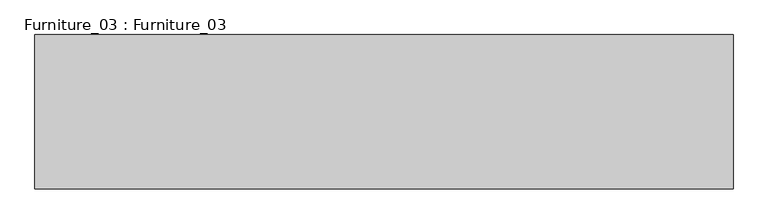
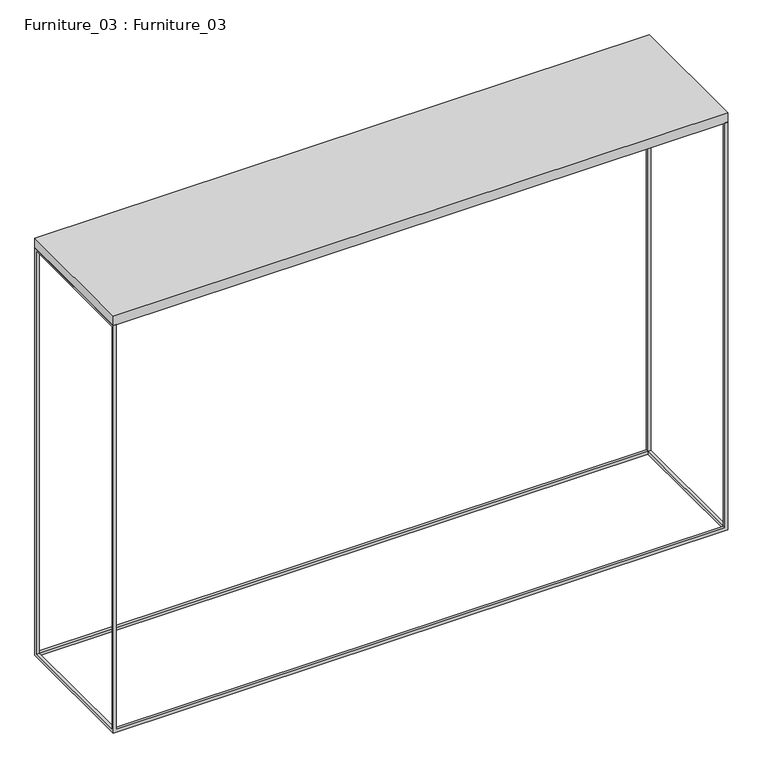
"""IFC4 building model written with IfcOpenShell, lengths in millimetres: furniture geometry, Furniture_03 : Furniture_03."""

import ifcopenshell
import ifcopenshell.guid

model = None  # the IFC model being written
_history = None  # IfcOwnerHistory: only IFC2X3 demands one
_inside = {}  # id of a spatial element -> (the spatial element, [elements in it])
_under = {}  # id of a project, library or spatial element -> (it, [spatial elements below it])
_declared = {}  # id of a project -> (the project, [libraries it declares])
_typed = {}  # id of a type object -> (the type object, [elements of that type])
_made_of = {}  # id of a material, layer set ... -> (it, [elements and type objects made of it])


def new_model(schema):
    """Start an empty IFC model of exactly this schema.

    Asked for "IFC4X3", IfcOpenShell would pick the latest addendum, in which some entities
    have other attributes; the version numbers below select the first issue.
    IFC2X3 requires an IfcOwnerHistory on every rooted entity: one is made here for all.
    """
    global model, _history
    if schema == "IFC4X3":
        model = ifcopenshell.file(schema_version=(4, 3, 0, 0))
    else:
        model = ifcopenshell.file(schema=schema)
    _inside.clear()
    _under.clear()
    _declared.clear()
    _typed.clear()
    _made_of.clear()
    _history = None
    if model.schema == "IFC2X3":
        org = make("IfcOrganization", Name="unknown")
        user = make(
            "IfcPersonAndOrganization",
            ThePerson=make("IfcPerson", FamilyName="unknown"),
            TheOrganization=org,
        )
        app = make(
            "IfcApplication",
            ApplicationDeveloper=org,
            Version="unknown",
            ApplicationFullName="unknown",
            ApplicationIdentifier="unknown",
        )
        _history = make(
            "IfcOwnerHistory",
            OwningUser=user,
            OwningApplication=app,
            ChangeAction="ADDED",
            CreationDate=0,
        )
    return model


def make(cls, **values):
    """One entity of the class cls with the attributes given. An attribute that is None is left unset."""
    return model.create_entity(
        cls, **{name: value for name, value in values.items() if value is not None}
    )


def rooted(cls, **values):
    """An entity with a GlobalId (a new one), such as an element, a storey or a relation."""
    return make(cls, GlobalId=ifcopenshell.guid.new(), OwnerHistory=_history, **values)


def si_unit(unit_type, name, prefix=None):
    """IfcSIUnit, for example si_unit("LENGTHUNIT", "METRE", prefix="MILLI")."""
    return make("IfcSIUnit", UnitType=unit_type, Prefix=prefix, Name=name)


def assignment(units):
    """IfcUnitAssignment: the units of a project."""
    return None if units is None else make("IfcUnitAssignment", Units=units)


def point(xyz):
    """IfcCartesianPoint."""
    return None if xyz is None else make("IfcCartesianPoint", Coordinates=xyz)


def direction(xyz):
    """IfcDirection."""
    return None if xyz is None else make("IfcDirection", DirectionRatios=xyz)


def frame(location, z_axis=None, x_axis=None):
    """IfcAxis2Placement3D, a coordinate frame: its origin and axes. An axis left out is left unset."""
    return make(
        "IfcAxis2Placement3D",
        Location=point(location),
        Axis=direction(z_axis),
        RefDirection=direction(x_axis),
    )


def origin():
    """The frame at (0, 0, 0) with its axes left unset."""
    return frame((0.0, 0.0, 0.0))


def place(relative_to, where):
    """IfcLocalPlacement: puts the frame where relative to a parent placement (None: the world)."""
    return make(
        "IfcLocalPlacement", PlacementRelTo=relative_to, RelativePlacement=where
    )


def context(
    kind, dimensions, precision=None, world=None, true_north=None, identifier=None
):
    """IfcGeometricRepresentationContext, for example the 3D "Model" context."""
    return make(
        "IfcGeometricRepresentationContext",
        ContextIdentifier=identifier,
        ContextType=kind,
        CoordinateSpaceDimension=dimensions,
        Precision=precision,
        WorldCoordinateSystem=world,
        TrueNorth=true_north,
    )


def project(units=None, contexts=None):
    """IfcProject with its units and contexts."""
    return rooted(
        "IfcProject",
        Name="project",
        RepresentationContexts=contexts,
        UnitsInContext=assignment(units),
    )


def spatial(cls, under=None, at=None, **own):
    """A site, building, storey or space (cls), placed at a placement, below another one or the project."""
    s = rooted(cls, ObjectPlacement=at, **own)
    if under is not None:
        _under.setdefault(under.id(), (under, []))[1].append(s)
    return s


def polyline(points):
    """IfcPolyline through the points."""
    return make("IfcPolyline", Points=[point(p) for p in points])


def outline(outer, holes=None, kind="AREA"):
    """IfcArbitraryClosedProfileDef: a profile drawn as a closed curve; with holes, ...WithVoids."""
    if holes is None:
        return make("IfcArbitraryClosedProfileDef", ProfileType=kind, OuterCurve=outer)
    return make(
        "IfcArbitraryProfileDefWithVoids",
        ProfileType=kind,
        OuterCurve=outer,
        InnerCurves=holes,
    )


def extrude(swept, where, along, depth):
    """IfcExtrudedAreaSolid: the profile swept, set in the frame where, extruded along a direction by depth."""
    return make(
        "IfcExtrudedAreaSolid",
        SweptArea=swept,
        Position=where,
        ExtrudedDirection=direction(along),
        Depth=depth,
    )


def faces_of(points, faces, orient=None, outer=None):
    """IfcFace entities. A face is a list of loops; a loop is a list of indices into points, from 0.

    orient and outer hold one flag for each loop. By default every Orientation is true, the
    first loop of a face is its IfcFaceOuterBound and the others are IfcFaceBound.
    """
    made = []
    for i, loops in enumerate(faces):
        bounds = []
        for j, loop in enumerate(loops):
            is_outer = j == 0 if outer is None else outer[i][j]
            bounds.append(
                make(
                    "IfcFaceOuterBound" if is_outer else "IfcFaceBound",
                    Bound=make("IfcPolyLoop", Polygon=[points[k] for k in loop]),
                    Orientation=True if orient is None else orient[i][j],
                )
            )
        made.append(make("IfcFace", Bounds=bounds))
    return made


def faceted_brep(points, faces, orient=None, outer=None, voids=None):
    """IfcFacetedBrep: a solid bounded by flat faces; with voids (closed shells), ...WithVoids."""
    shared = [point(p) for p in points]
    hull = make("IfcClosedShell", CfsFaces=faces_of(shared, faces, orient, outer))
    if voids is None:
        return make("IfcFacetedBrep", Outer=hull)
    return make(
        "IfcFacetedBrepWithVoids",
        Outer=hull,
        Voids=[
            make(cls, CfsFaces=faces_of(shared, fs, o, b)) for cls, fs, o, b in voids
        ],
    )


def shape(context_of_items, identifier, shape_type, items):
    """IfcShapeRepresentation: the items that make up one representation, for example the "Body"."""
    return make(
        "IfcShapeRepresentation",
        ContextOfItems=context_of_items,
        RepresentationIdentifier=identifier,
        RepresentationType=shape_type,
        Items=items,
    )


def source(mapping_origin, context_of_items, identifier, shape_type, items):
    """IfcRepresentationMap: a shape defined once, which mapped items show again and again."""
    return make(
        "IfcRepresentationMap",
        MappingOrigin=mapping_origin,
        MappedRepresentation=shape(context_of_items, identifier, shape_type, items),
    )


def transform(
    local_origin,
    x_axis=None,
    y_axis=None,
    z_axis=None,
    scale=None,
    scale2=None,
    scale3=None,
    uniform=True,
):
    """IfcCartesianTransformationOperator3D, or its non-uniform kind. x_axis, y_axis, z_axis: its Axis1, 2, 3."""
    if uniform:
        return make(
            "IfcCartesianTransformationOperator3D",
            Axis1=direction(x_axis),
            Axis2=direction(y_axis),
            LocalOrigin=point(local_origin),
            Scale=scale,
            Axis3=direction(z_axis),
        )
    return make(
        "IfcCartesianTransformationOperator3DnonUniform",
        Axis1=direction(x_axis),
        Axis2=direction(y_axis),
        LocalOrigin=point(local_origin),
        Scale=scale,
        Axis3=direction(z_axis),
        Scale2=scale2,
        Scale3=scale3,
    )


def mapped(mapping_source, mapping_target):
    """IfcMappedItem: shows the shape of a source again, moved by a transform."""
    return make(
        "IfcMappedItem", MappingSource=mapping_source, MappingTarget=mapping_target
    )


def made_of(thing, what):
    """Note that an element or type object is made of a material, layer set ...; save() writes the relation."""
    if what is not None:
        _made_of.setdefault(what.id(), (what, []))[1].append(thing)
    return thing


def element(
    cls,
    number,
    at=None,
    inside=None,
    cuts=None,
    type_object=None,
    material=None,
    context=None,
    identifier="Body",
    shape_type=None,
    held_by="IfcProductDefinitionShape",
    body=None,
    shapes=None,
    **own,
):
    """One element of the class cls, such as IfcWall. Its Tag is "e" and its number.

    at: its placement. inside: the storey or other place that contains it. cuts: it is an
    opening in that element (IfcRelVoidsElement). A single representation is given by context,
    identifier, shape_type and body (its items); several are given by shapes. held_by: the class
    of the entity that holds the representations. save() writes the other relations.
    """
    e = rooted(cls, Tag="e%d" % number, ObjectPlacement=at, **own)
    if body is not None:
        shapes = [shape(context, identifier, shape_type, body)]
    if shapes is not None:
        e.Representation = make(held_by, Representations=shapes)
    if inside is not None:
        _inside.setdefault(inside.id(), (inside, []))[1].append(e)
    if cuts is not None:
        rooted(
            "IfcRelVoidsElement", RelatingBuildingElement=cuts, RelatedOpeningElement=e
        )
    if type_object is not None:
        _typed.setdefault(type_object.id(), (type_object, []))[1].append(e)
    return made_of(e, material)


def aggregate(whole, parts):
    """IfcRelAggregates: a whole, such as a stair, and the parts it consists of."""
    return rooted("IfcRelAggregates", RelatingObject=whole, RelatedObjects=parts)


def save(model, path):
    """Write the relations noted so far, then the file.

    IfcRelAggregates (storeys below a building ...), IfcRelContainedInSpatialStructure (elements
    in a storey), IfcRelDefinesByType, IfcRelAssociatesMaterial and IfcRelDeclares: one each for
    every whole, place, type object, material and project.
    """
    for whole, parts in _under.values():
        aggregate(whole, parts)
    for where, things in _inside.values():
        rooted(
            "IfcRelContainedInSpatialStructure",
            RelatedElements=things,
            RelatingStructure=where,
        )
    for kind, things in _typed.values():
        rooted("IfcRelDefinesByType", RelatedObjects=things, RelatingType=kind)
    for what, things in _made_of.values():
        rooted("IfcRelAssociatesMaterial", RelatedObjects=things, RelatingMaterial=what)
    for by, libraries in _declared.values():
        rooted("IfcRelDeclares", RelatingContext=by, RelatedDefinitions=libraries)
    model.write(path)


def furniture_03_furniture_03_c5ecfdc4(model_context):
    return source(origin(), model_context, "Body", "SolidModel", [
        faceted_brep([(3145.1237709, 18469.3722598, 8085.0), (3145.1237709, 18469.3722598, 8080.0), (3145.1237709, 18239.3722598, 8080.0), (3145.1237709, 18239.3722598, 8085.0), (3150.1237709, 18474.3722598, 8840.281807), (3150.1237709, 18234.3722598, 8840.281807), (3150.1237709, 18234.3722598, 8080.0), (3150.1237709, 18474.3722598, 8080.0), (3150.1237709, 18469.3722598, 8085.0), (3150.1237709, 18239.3722598, 8085.0), (3150.1237709, 18239.3722598, 8835.281807), (3150.1237709, 18469.3722598, 8835.281807), (2070.1237709, 18239.3722598, 8080.0), (2070.1237709, 18239.3722598, 8085.0), (3145.1237709, 18234.3722598, 8840.281807), (3145.1237709, 18234.3722598, 8085.0), (2070.1237709, 18234.3722598, 8085.0), (2070.1237709, 18234.3722598, 8840.281807), (2065.1237709, 18234.3722598, 8840.281807), (2065.1237709, 18234.3722598, 8080.0), (2070.1237709, 18469.3722598, 8080.0), (2070.1237709, 18469.3722598, 8085.0), (2065.1237709, 18474.3722598, 8080.0), (2065.1237709, 18474.3722598, 8840.281807), (2065.1237709, 18239.3722598, 8835.281807), (2065.1237709, 18239.3722598, 8085.0), (2065.1237709, 18469.3722598, 8085.0), (2065.1237709, 18469.3722598, 8835.281807), (3145.1237709, 18474.3722598, 8085.0), (2070.1237709, 18474.3722598, 8085.0), (2070.1237709, 18474.3722598, 8840.281807), (3145.1237709, 18474.3722598, 8840.281807), (2070.1237709, 18239.3722598, 8835.281807), (2070.1237709, 18469.3722598, 8835.281807), (3145.1237709, 18239.3722598, 8835.281807), (3145.1237709, 18469.3722598, 8835.281807)], [[[0, 1, 2, 3]], [[4, 5, 6, 7], [8, 9, 10, 11]], [[3, 2, 12, 13]], [[6, 5, 14, 15, 16, 17, 18, 19]], [[13, 12, 20, 21]], [[22, 19, 18, 23], [24, 25, 26, 27]], [[1, 0, 21, 20]], [[0, 3, 9, 8]], [[3, 13, 16, 15]], [[13, 21, 26, 25]], [[21, 0, 28, 29]], [[4, 7, 22, 23, 30, 29, 28, 31]], [[22, 7, 6, 19], [2, 1, 20, 12]], [[24, 32, 13, 25]], [[21, 33, 27, 26]], [[18, 17, 30, 23]], [[13, 32, 33, 21, 29, 30, 17, 16]], [[32, 24, 27, 33]], [[34, 10, 9, 3]], [[8, 11, 35, 0]], [[14, 5, 4, 31]], [[10, 34, 35, 11]], [[34, 3, 15, 14, 31, 28, 0, 35]]]),
        extrude(outline(polyline([(3150.1237709, 18474.3722598), (3150.1237709, 18234.3722598), (2065.1237709, 18234.3722598), (2065.1237709, 18474.3722598), (3150.1237709, 18474.3722598)])), frame((0.0, 0.0, 8840.281807), z_axis=(0.0, 0.0, 1.0), x_axis=(1.0, 0.0, 0.0)), (0.0, 0.0, 1.0), 17.1007022),
    ])


if __name__ == "__main__":
    model = new_model("IFC4")
    model_context = context("Model", 3, world=origin())
    ifc_project = project(units=[si_unit("LENGTHUNIT", "METRE", prefix="MILLI")], contexts=[model_context])
    site = spatial("IfcSite", under=ifc_project)
    building = spatial("IfcBuilding", under=site)
    placement = place(None, origin())
    furniture_03_furniture_03_shape = furniture_03_furniture_03_c5ecfdc4(model_context)
    element("IfcFurniture", 1, ObjectType="Furniture_03 : Furniture_03", at=placement, inside=building, context=model_context, shape_type="MappedRepresentation", body=[
        mapped(furniture_03_furniture_03_shape, transform((0.0, 0.0, 0.0), x_axis=(1.0, 0.0, 0.0), y_axis=(0.0, 1.0, 0.0), z_axis=(0.0, 0.0, 1.0))),
    ])
    save(model, "model.ifc")
